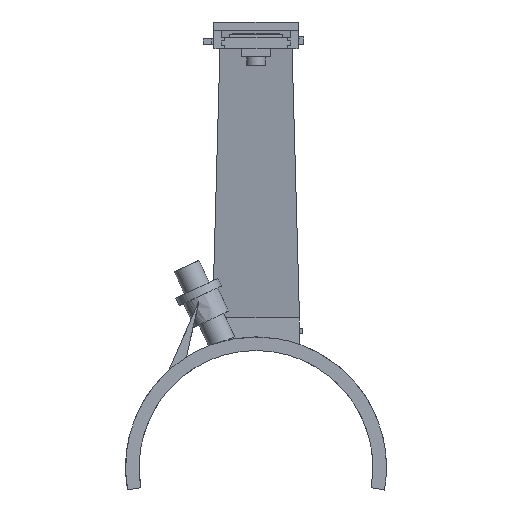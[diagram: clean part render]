
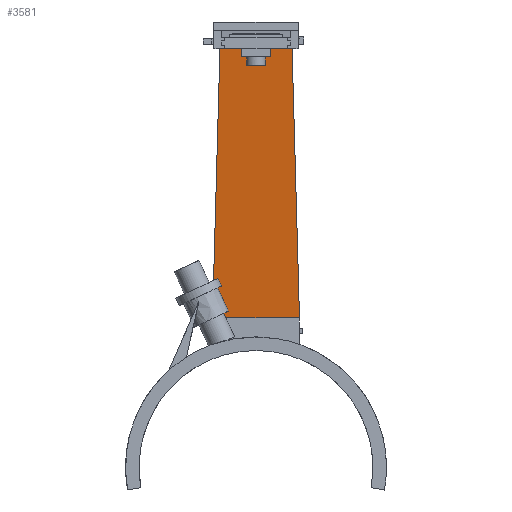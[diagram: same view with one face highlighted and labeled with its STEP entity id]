
A CAD part, front view. The second image highlights one B-rep face of the part: STEP entity #3581.
In plain terms, the highlighted planar face has unit normal (0, -0.992, -0.123).
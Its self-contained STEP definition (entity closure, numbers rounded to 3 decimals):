
#12=DIRECTION('',(1.0,0.0,0.0));
#1996=CARTESIAN_POINT('',(12.7,12.541,155.53));
#1997=VERTEX_POINT('',#1996);
#2000=DIRECTION('',(1.0,0.,0.0));
#2001=VECTOR('',#2000,25.4);
#2002=CARTESIAN_POINT('',(-12.7,12.541,155.53));
#2003=LINE('',#2002,#2001);
#2004=VERTEX_POINT('',#2002);
#2005=EDGE_CURVE('',#2004,#1997,#2003,.T.);
#2285=CARTESIAN_POINT('',(-16.0,25.,55.));
#2286=VERTEX_POINT('',#2285);
#2290=DIRECTION('',(1.0,0.0,0.));
#2291=VECTOR('',#2290,32.0);
#2292=LINE('',#2285,#2291);
#2293=CARTESIAN_POINT('',(16.0,25.,55.));
#2294=VERTEX_POINT('',#2293);
#2295=EDGE_CURVE('',#2286,#2294,#2292,.T.);
#2337=CARTESIAN_POINT('',(-13.273,12.727,154.03));
#2339=VERTEX_POINT('',#2337);
#2342=DIRECTION('',(0.027,-0.123,0.992));
#2343=VECTOR('',#2342,99.825);
#2344=LINE('',#2285,#2343);
#2345=EDGE_CURVE('',#2286,#2339,#2344,.T.);
#2385=DIRECTION('',(0.027,0.123,-0.992));
#2386=VECTOR('',#2385,99.825);
#2387=CARTESIAN_POINT('',(13.273,12.727,154.03));
#2388=LINE('',#2387,#2386);
#2389=VERTEX_POINT('',#2387);
#2390=EDGE_CURVE('',#2389,#2294,#2388,.T.);
#2837=CARTESIAN_POINT('',(11.5,12.578,155.23));
#2841=VERTEX_POINT('',#2837);
#2844=DIRECTION('',(1.0,0.,0.));
#2845=VECTOR('',#2844,1.2);
#2846=LINE('',#2837,#2845);
#2847=CARTESIAN_POINT('',(12.7,12.578,155.23));
#2848=VERTEX_POINT('',#2847);
#2849=EDGE_CURVE('',#2841,#2848,#2846,.T.);
#2909=CARTESIAN_POINT('',(-12.7,12.578,155.23));
#2910=VERTEX_POINT('',#2909);
#2914=DIRECTION('',(1.0,0.,0.));
#2915=VECTOR('',#2914,1.2);
#2916=LINE('',#2909,#2915);
#2917=CARTESIAN_POINT('',(-11.5,12.578,155.23));
#2918=VERTEX_POINT('',#2917);
#2919=EDGE_CURVE('',#2910,#2918,#2916,.T.);
#3169=CARTESIAN_POINT('',(11.5,12.727,154.03));
#3171=VERTEX_POINT('',#3169);
#3174=DIRECTION('',(0.0,-0.123,0.992));
#3175=VECTOR('',#3174,1.209);
#3176=LINE('',#3169,#3175);
#3177=EDGE_CURVE('',#3171,#2841,#3176,.T.);
#3204=DIRECTION('',(0.,-0.123,0.992));
#3205=VECTOR('',#3204,0.302);
#3206=LINE('',#2847,#3205);
#3207=EDGE_CURVE('',#2848,#1997,#3206,.T.);
#3293=DIRECTION('',(0.,0.123,-0.992));
#3294=VECTOR('',#3293,1.209);
#3295=LINE('',#2917,#3294);
#3296=CARTESIAN_POINT('',(-11.5,12.727,154.03));
#3297=VERTEX_POINT('',#3296);
#3298=EDGE_CURVE('',#2918,#3297,#3295,.T.);
#3364=DIRECTION('',(0.0,0.123,-0.992));
#3365=VECTOR('',#3364,0.302);
#3366=CARTESIAN_POINT('',(-12.7,12.541,155.53));
#3367=LINE('',#3366,#3365);
#3368=EDGE_CURVE('',#2004,#2910,#3367,.T.);
#3456=DIRECTION('',(-1.0,0.,0.));
#3457=VECTOR('',#3456,1.773);
#3458=LINE('',#2387,#3457);
#3459=EDGE_CURVE('',#2389,#3171,#3458,.T.);
#3464=DIRECTION('',(-1.0,0.,0.));
#3465=VECTOR('',#3464,1.773);
#3466=LINE('',#3296,#3465);
#3467=EDGE_CURVE('',#3297,#2339,#3466,.T.);
#3548=DIRECTION('',(0.0,-0.992,-0.123));
#3549=CARTESIAN_POINT('',(-16.0,25.,55.));
#3550=AXIS2_PLACEMENT_3D('',#3549,#3548,#12);
#3551=PLANE('',#3550);
#3567=ORIENTED_EDGE('',*,*,#2005,.F.);
#3568=ORIENTED_EDGE('',*,*,#3207,.T.);
#3569=ORIENTED_EDGE('',*,*,#2849,.T.);
#3570=ORIENTED_EDGE('',*,*,#3177,.T.);
#3571=ORIENTED_EDGE('',*,*,#3459,.T.);
#3572=ORIENTED_EDGE('',*,*,#2390,.F.);
#3573=ORIENTED_EDGE('',*,*,#2295,.T.);
#3574=ORIENTED_EDGE('',*,*,#2345,.F.);
#3575=ORIENTED_EDGE('',*,*,#3467,.T.);
#3576=ORIENTED_EDGE('',*,*,#3298,.T.);
#3577=ORIENTED_EDGE('',*,*,#2919,.T.);
#3578=ORIENTED_EDGE('',*,*,#3368,.T.);
#3579=EDGE_LOOP('',(#3578,#3577,#3576,#3575,#3574,#3573,#3572,#3571,#3570,#3569,#3568,#3567));
#3580=FACE_BOUND('',#3579,.T.);
#3581=ADVANCED_FACE('',(#3580),#3551,.T.);
